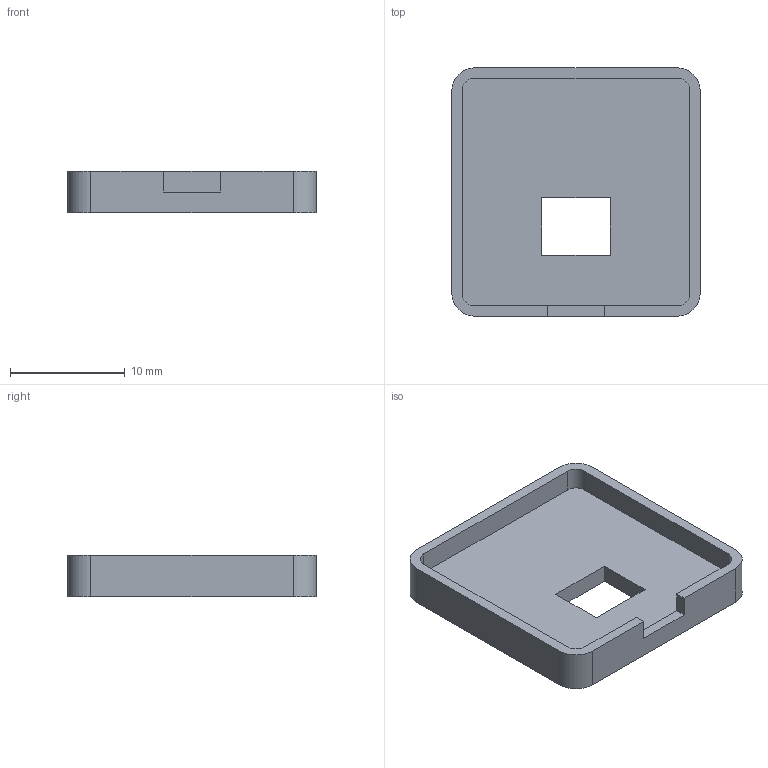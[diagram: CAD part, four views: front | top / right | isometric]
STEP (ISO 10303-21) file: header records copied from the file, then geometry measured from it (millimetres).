
FILE_DESCRIPTION(('Open CASCADE Model'),'2;1');
FILE_NAME('Open CASCADE Shape Model','2026-09-06T14:27:59',('Author'),( 'Open CASCADE'),'Open CASCADE STEP processor 7.9','Open CASCADE 7.9' ,'Unknown');
FILE_SCHEMA(('AUTOMOTIVE_DESIGN { 1 0 10303 214 1 1 1 1 }'));
Length unit declared in the file: millimetre
Products named in the file (1): Open CASCADE STEP translator 7.9 4
Bounding box: 21.6 x 21.6 x 3.6 mm (x, y, z)
Volume: 829.2 mm3; surface area: 1340 mm2
Topology: 1 solids, 1 shells, 26 faces, 72 edges, 48 vertices
Faces by surface type: plane 18, cylinder 8
Entity records: 1758 total; most frequent: CARTESIAN_POINT 369, DIRECTION 238, ORIENTED_EDGE 144, PCURVE 144, DEFINITIONAL_REPRESENTATION 144, LINE 142, VECTOR 142, EDGE_CURVE 72
